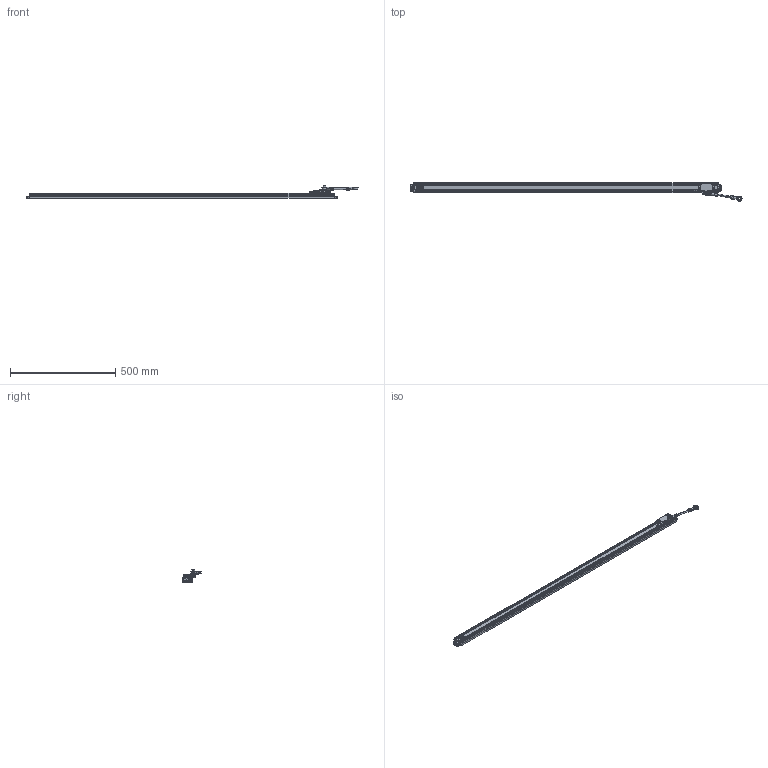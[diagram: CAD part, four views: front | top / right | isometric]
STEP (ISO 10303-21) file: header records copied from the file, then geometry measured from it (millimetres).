
FILE_DESCRIPTION(('Creo Elements/Direct Modeling STEP Export'),'2;1');
FILE_NAME('SERIE_PB-1340.stp','2017-01-11T13:14:49',(''),(''),'Creo Elements/Direct Modeling STEP processor for AP214 (Solid Model)','Creo Elements/Direct Modeling 18.1H 24-Oct-2015 (C) Parametric Technology GmbH','');
FILE_SCHEMA(('AUTOMOTIVE_DESIGN { 1 0 10303 214 1 1 1 1 }'));
Length unit declared in the file: millimetre
Products named in the file (14): BLOCK; COUPLING_BAR; IO; READING_HEAD_BODY; SCALE_BLOCK_1; SCALE_BLOCK_2; SCALE_BODY_1340
Assembly tree (7 placements, depth 2):
  BLOCK
    BLOCK
  COUPLING_BAR
    COUPLING_BAR
  IO
    IO
  READING_HEAD_BODY
    READING_HEAD_BODY
  SCALE_BLOCK_1
    SCALE_BLOCK_1
Bounding box: 1580.72 x 87.83 x 59.41 mm (x, y, z)
Volume: 1520084.6 mm3; surface area: 272016 mm2
Topology: 9 solids, 13 shells, 1960 faces, 5109 edges, 3177 vertices
Faces by surface type: plane 891, cylinder 671, bspline 198, torus 70, cone 70, sphere 51, extrusion 9
Entity records: 90029 total; most frequent: CARTESIAN_POINT 41051, ORIENTED_EDGE 10084, DIRECTION 8481, EDGE_CURVE 5034, VERTEX_POINT 3177, VECTOR 2925, LINE 2916, AXIS2_PLACEMENT_3D 2778
